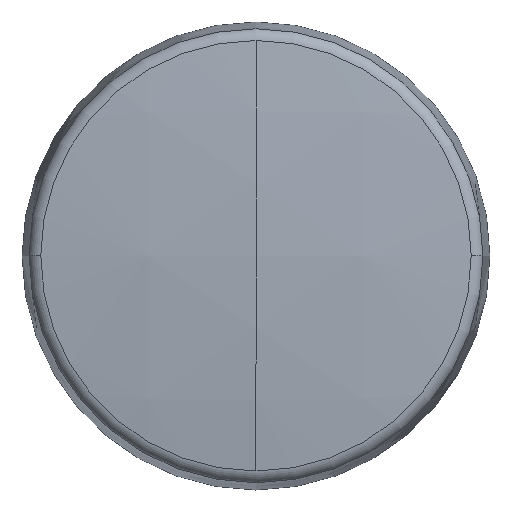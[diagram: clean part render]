
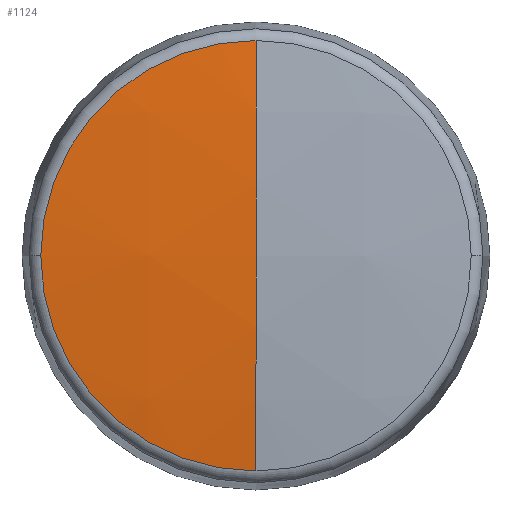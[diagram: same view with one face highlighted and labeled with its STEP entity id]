
A CAD part, top view. The second image highlights one B-rep face of the part: STEP entity #1124.
In plain terms, the highlighted spherical face has radius 379.257 mm.
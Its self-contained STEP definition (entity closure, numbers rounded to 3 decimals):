
#114 = EDGE_CURVE ( 'NONE', #1633, #1172, #390, .T. ) ;
#157 = CARTESIAN_POINT ( 'NONE',  ( -50., -50., -319.057 ) ) ;
#192 = AXIS2_PLACEMENT_3D ( 'NONE', #503, #1194, #633 ) ;
#209 = AXIS2_PLACEMENT_3D ( 'NONE', #364, #881, #718 ) ;
#267 = ORIENTED_EDGE ( 'NONE', *, *, #1542, .F. ) ;
#322 = CARTESIAN_POINT ( 'NONE',  ( -50., -50., -319.057 ) ) ;
#337 = ORIENTED_EDGE ( 'NONE', *, *, #114, .T. ) ;
#364 = CARTESIAN_POINT ( 'NONE',  ( -50., -50., -319.057 ) ) ;
#390 = CIRCLE ( 'NONE', #209, 379.257 ) ;
#466 = DIRECTION ( 'NONE',  ( -1., 0., 0. ) ) ;
#479 = SPHERICAL_SURFACE ( 'NONE', #1717, 379.257 ) ;
#503 = CARTESIAN_POINT ( 'NONE',  ( -50., -50., 57.4 ) ) ;
#586 = FACE_OUTER_BOUND ( 'NONE', #1576, .T. ) ;
#633 = DIRECTION ( 'NONE',  ( 1., 0., 0. ) ) ;
#718 = DIRECTION ( 'NONE',  ( 0., -1., 0. ) ) ;
#724 = AXIS2_PLACEMENT_3D ( 'NONE', #846, #1889, #1725 ) ;
#767 = ORIENTED_EDGE ( 'NONE', *, *, #1408, .T. ) ;
#819 = CARTESIAN_POINT ( 'NONE',  ( -50., -50., 60.2 ) ) ;
#846 = CARTESIAN_POINT ( 'NONE',  ( -50., -50., 57.4 ) ) ;
#881 = DIRECTION ( 'NONE',  ( -1., 0., 0. ) ) ;
#939 = AXIS2_PLACEMENT_3D ( 'NONE', #322, #1543, #1678 ) ;
#1035 = VERTEX_POINT ( 'NONE', #1762 ) ;
#1088 = CIRCLE ( 'NONE', #724, 46. ) ;
#1124 = ADVANCED_FACE ( 'NONE', ( #586 ), #479, .T. ) ;
#1172 = VERTEX_POINT ( 'NONE', #819 ) ;
#1194 = DIRECTION ( 'NONE',  ( 0., 0., 1. ) ) ;
#1241 = EDGE_CURVE ( 'NONE', #1560, #1035, #1960, .T. ) ;
#1283 = CARTESIAN_POINT ( 'NONE',  ( -50., -96., 57.4 ) ) ;
#1286 = ORIENTED_EDGE ( 'NONE', *, *, #1241, .T. ) ;
#1367 = DIRECTION ( 'NONE',  ( 0., 1., 0. ) ) ;
#1408 = EDGE_CURVE ( 'NONE', #1035, #1633, #1088, .T. ) ;
#1542 = EDGE_CURVE ( 'NONE', #1560, #1172, #1605, .T. ) ;
#1543 = DIRECTION ( 'NONE',  ( 1., 0., 0. ) ) ;
#1560 = VERTEX_POINT ( 'NONE', #1567 ) ;
#1567 = CARTESIAN_POINT ( 'NONE',  ( -50., -4., 57.4 ) ) ;
#1576 = EDGE_LOOP ( 'NONE', ( #1286, #767, #337, #267 ) ) ;
#1605 = CIRCLE ( 'NONE', #939, 379.257 ) ;
#1633 = VERTEX_POINT ( 'NONE', #1283 ) ;
#1678 = DIRECTION ( 'NONE',  ( 0., 0., -1. ) ) ;
#1717 = AXIS2_PLACEMENT_3D ( 'NONE', #157, #466, #1367 ) ;
#1725 = DIRECTION ( 'NONE',  ( 1., 0., 0. ) ) ;
#1762 = CARTESIAN_POINT ( 'NONE',  ( -96., -50., 57.4 ) ) ;
#1889 = DIRECTION ( 'NONE',  ( 0., 0., 1. ) ) ;
#1960 = CIRCLE ( 'NONE', #192, 46. ) ;
